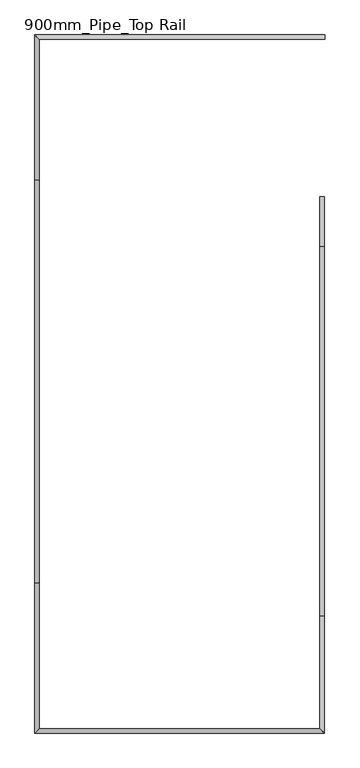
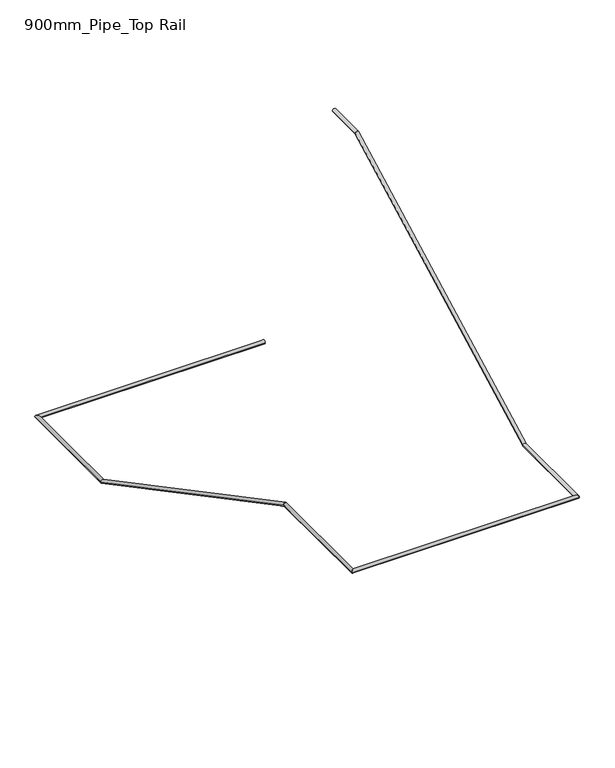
"""IFC4 building model written with IfcOpenShell, lengths in millimetres: railing geometry, 900mm_Pipe_Top Rail."""

from ifc_helpers import new_model, si_unit, frame, origin, place, context, project, spatial, circle_curve, ellipse_curve, source, transform, mapped, element, save
from ifc_brep_helpers import plane_surface, cylinder_surface, advanced_brep


def railing_900mm_pipe_top_rail_e4b130cf(model_context):
    return source(origin(), model_context, "Body", "AdvancedBrep", [
        advanced_brep(
        [(-10790.2146087, 13859.8960677, 2830.0), (-10790.2146087, 13819.8960677, 2830.0), (-13385.3216429, 13859.8960677, 2830.0), (-13345.3216429, 13819.8960677, 2830.0), (-13385.3216429, 12559.9276195, 2830.0), (-13345.3216429, 12559.9276195, 2830.0), (-13385.3216429, 8959.9276195, 4736.2857143), (-13345.3216429, 8959.9276195, 4736.2857143), (-13385.3216429, 7619.8960687, 4736.2857143), (-13345.3216429, 7659.8960687, 4736.2857143), (-10795.2146087, 7619.8960687, 4736.2857143), (-10835.2146087, 7659.8960687, 4736.2857143), (-10795.2146087, 8669.864518, 4736.2857143), (-10835.2146087, 8669.864518, 4736.2857143), (-10795.2146087, 11969.864518, 6483.7142857), (-10835.2146087, 11969.864518, 6483.7142857), (-10795.2146087, 12414.8934136, 6483.7142857), (-10835.2146087, 12414.8934136, 6483.7142857)],
        [
            (0, 1, circle_curve(frame((-10790.2146087, 13839.8960677, 2830.0), z_axis=(1.0, 0.0, 0.0), x_axis=(0.0, -1.0, 0.0)), 20.0)),
            (1, 0, circle_curve(frame((-10790.2146087, 13839.8960677, 2830.0), z_axis=(1.0, 0.0, 0.0), x_axis=(0.0, -1.0, 0.0)), 20.0)),
            (0, 2),
            (2, 3, ellipse_curve(frame((-13365.3216429, 13839.8960677, 2830.0), z_axis=(0.707106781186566, 0.7071067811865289, 0.0), x_axis=(0.707106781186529, -0.707106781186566, 0.0)), 28.2842712, 20.0)),
            (3, 1),
            (3, 2, ellipse_curve(frame((-13365.3216429, 13839.8960677, 2830.0), z_axis=(0.707106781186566, 0.7071067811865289, 0.0), x_axis=(0.707106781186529, -0.707106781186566, 0.0)), 28.2842712, 20.0)),
            (2, 4),
            (4, 5, ellipse_curve(frame((-13365.3216429, 12559.9276195, 2830.0), z_axis=(0.0, 0.9705016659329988, -0.24109441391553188), x_axis=(0.0, 0.24109441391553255, 0.9705016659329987)), 20.6078987, 20.0)),
            (5, 3),
            (5, 4, ellipse_curve(frame((-13365.3216429, 12559.9276195, 2830.0), z_axis=(0.0, 0.9705016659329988, -0.24109441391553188), x_axis=(0.0, 0.24109441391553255, 0.9705016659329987)), 20.6078987, 20.0)),
            (4, 6),
            (6, 7, ellipse_curve(frame((-13365.3216429, 8959.9276195, 4736.2857143), z_axis=(0.0, 0.9705016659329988, -0.2410944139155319), x_axis=(0.0, -0.2410944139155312, -0.970501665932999)), 20.6078987, 20.0)),
            (7, 5),
            (7, 6, ellipse_curve(frame((-13365.3216429, 8959.9276195, 4736.2857143), z_axis=(0.0, 0.9705016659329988, -0.2410944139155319), x_axis=(0.0, -0.2410944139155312, -0.970501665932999)), 20.6078987, 20.0)),
            (6, 8),
            (8, 9, ellipse_curve(frame((-13365.3216429, 7639.8960687, 4736.2857143), z_axis=(-0.7071067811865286, 0.7071067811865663, 0.0), x_axis=(0.7071067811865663, 0.7071067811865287, 0.0)), 28.2842712, 20.0)),
            (9, 7),
            (9, 8, ellipse_curve(frame((-13365.3216429, 7639.8960687, 4736.2857143), z_axis=(-0.7071067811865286, 0.7071067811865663, 0.0), x_axis=(0.7071067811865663, 0.7071067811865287, 0.0)), 28.2842712, 20.0)),
            (8, 10),
            (10, 11, ellipse_curve(frame((-10815.2146087, 7639.8960687, 4736.2857143), z_axis=(-0.7071067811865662, -0.7071067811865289, 0.0), x_axis=(-0.7071067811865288, 0.7071067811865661, 0.0)), 28.2842712, 20.0)),
            (11, 9),
            (11, 10, ellipse_curve(frame((-10815.2146087, 7639.8960687, 4736.2857143), z_axis=(-0.7071067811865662, -0.7071067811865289, 0.0), x_axis=(-0.7071067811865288, 0.7071067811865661, 0.0)), 28.2842712, 20.0)),
            (10, 12),
            (12, 13, ellipse_curve(frame((-10815.2146087, 8669.864518, 4736.2857143), z_axis=(0.0, -0.9705016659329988, -0.2410944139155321), x_axis=(0.0, -0.24109441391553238, 0.9705016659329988)), 20.6078987, 20.0)),
            (13, 11),
            (13, 12, ellipse_curve(frame((-10815.2146087, 8669.864518, 4736.2857143), z_axis=(0.0, -0.9705016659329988, -0.2410944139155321), x_axis=(0.0, -0.24109441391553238, 0.9705016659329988)), 20.6078987, 20.0)),
            (12, 14),
            (14, 15, ellipse_curve(frame((-10815.2146087, 11969.864518, 6483.7142857), z_axis=(0.0, -0.9705016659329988, -0.24109441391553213), x_axis=(0.0, 0.24109441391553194, -0.9705016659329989)), 20.6078987, 20.0)),
            (15, 13),
            (15, 14, ellipse_curve(frame((-10815.2146087, 11969.864518, 6483.7142857), z_axis=(0.0, -0.9705016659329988, -0.24109441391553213), x_axis=(0.0, 0.24109441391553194, -0.9705016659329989)), 20.6078987, 20.0)),
            (16, 17, circle_curve(frame((-10815.2146087, 12414.8934136, 6483.7142857), z_axis=(0.0, 1.0, 0.0), x_axis=(-1.0, 0.0, 0.0)), 20.0)),
            (17, 16, circle_curve(frame((-10815.2146087, 12414.8934136, 6483.7142857), z_axis=(0.0, 1.0, 0.0), x_axis=(-1.0, 0.0, 0.0)), 20.0)),
            (14, 16),
            (17, 15),
        ],
        [
            plane_surface(frame((-10790.2146087, 13839.8960677, 2850.0), z_axis=(1.0, 0.0, 0.0), x_axis=(0.0, -1.0, 0.0))),
            cylinder_surface(frame((-10790.2146087, 13839.8960677, 2830.0), z_axis=(1.0, 0.0, 0.0), x_axis=(0.0, -1.0, 0.0)), 20.0),
            cylinder_surface(frame((-13365.3216429, 13839.8960677, 2830.0), z_axis=(0.0, 1.0, 0.0), x_axis=(1.0, 0.0, 0.0)), 20.0),
            cylinder_surface(frame((-13365.3216429, 12555.5367675, 2832.3250607), z_axis=(0.0, 0.8837469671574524, -0.46796506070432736), x_axis=(1.0, 0.0, 0.0)), 20.0),
            cylinder_surface(frame((-13365.3216429, 8964.8960687, 4736.2857143), z_axis=(0.0, 1.0, 0.0), x_axis=(1.0, 0.0, 0.0)), 20.0),
            cylinder_surface(frame((-13365.3216429, 7639.8960687, 4736.2857143), z_axis=(-1.0, 0.0, 0.0), x_axis=(0.0, 1.0, 0.0)), 20.0),
            cylinder_surface(frame((-10815.2146087, 7639.8960687, 4736.2857143), z_axis=(0.0, -1.0, 0.0), x_axis=(-1.0, 0.0, 0.0)), 20.0),
            cylinder_surface(frame((-10815.2146087, 8674.25537, 4738.6107749), z_axis=(0.0, -0.8837469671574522, -0.46796506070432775), x_axis=(-1.0, 0.0, 0.0)), 20.0),
            plane_surface(frame((-10815.2146087, 12414.8934136, 6503.7142857), z_axis=(0.0, 1.0, 0.0), x_axis=(0.0, 0.0, 1.0))),
            cylinder_surface(frame((-10815.2146087, 11964.8960687, 6483.7142857), z_axis=(0.0, -1.0, 0.0), x_axis=(-1.0, 0.0, 0.0)), 20.0),
        ],
        [
            (0, [[1, 2]]),
            (1, [[-1, 3, 4, 5]]),
            (1, [[-2, -5, 6, -3]]),
            (2, [[-4, 7, 8, 9]]),
            (2, [[-6, -9, 10, -7]]),
            (3, [[-8, 11, 12, 13]]),
            (3, [[-10, -13, 14, -11]]),
            (4, [[-12, 15, 16, 17]]),
            (4, [[-14, -17, 18, -15]]),
            (5, [[-16, 19, 20, 21]]),
            (5, [[-18, -21, 22, -19]]),
            (6, [[-20, 23, 24, 25]]),
            (6, [[-22, -25, 26, -23]]),
            (7, [[-24, 27, 28, 29]]),
            (7, [[-26, -29, 30, -27]]),
            (8, [[31, 32]]),
            (9, [[-28, 33, -32, 34]]),
            (9, [[-30, -34, -31, -33]]),
        ],
    ),
    ])


if __name__ == "__main__":
    model = new_model("IFC4")
    model_context = context("Model", 3, world=origin())
    ifc_project = project(units=[si_unit("LENGTHUNIT", "METRE", prefix="MILLI")], contexts=[model_context])
    site = spatial("IfcSite", under=ifc_project)
    building = spatial("IfcBuilding", under=site)
    placement = place(None, origin())
    railing_900mm_pipe_top_rail_shape = railing_900mm_pipe_top_rail_e4b130cf(model_context)
    element("IfcRailing", 1, ObjectType="900mm_Pipe_Top Rail", at=placement, inside=building, context=model_context, shape_type="MappedRepresentation", body=[
        mapped(railing_900mm_pipe_top_rail_shape, transform((0.0, 0.0, 0.0), x_axis=(1.0, 0.0, 0.0), y_axis=(0.0, 1.0, 0.0), z_axis=(0.0, 0.0, 1.0))),
    ])
    save(model, "model.ifc")
